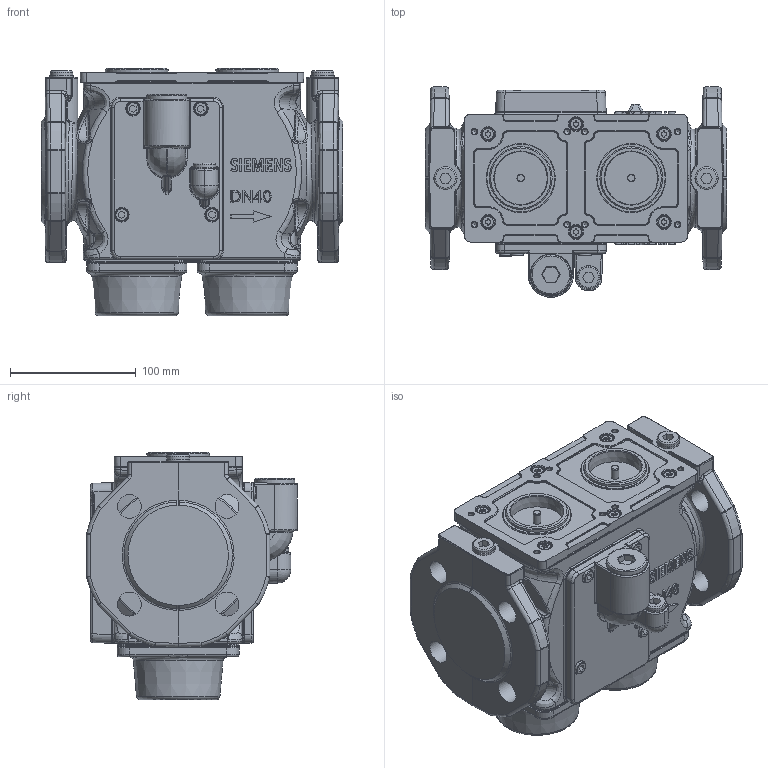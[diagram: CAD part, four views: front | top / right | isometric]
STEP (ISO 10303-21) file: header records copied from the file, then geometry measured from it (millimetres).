
FILE_DESCRIPTION(/* description */ (''),/* implementation_level */ '2;1');
FILE_NAME(/* name */ 'A5W00027701_02.stp',/* time_stamp */ '2018-06-27T09:00:15+02:00',/* author */ (''),/* organization */ (''),/* preprocessor_version */ 'ST-DEVELOPER v16',/* originating_system */ 'SIEMENS PLM Software NX 10.0',/* authorisation */ '');
FILE_SCHEMA (('AUTOMOTIVE_DESIGN { 1 0 10303 214 3 1 1 1 }'));
Products named in the file (1): Gant0728F15Eyvlt
Bounding box: 240 x 168 x 197 mm (x, y, z)
Volume: 4056001.3 mm3; surface area: 256739 mm2
Topology: 1 solids, 7 shells, 2971 faces, 7221 edges, 4384 vertices
Faces by surface type: plane 1128, cylinder 685, bspline 545, torus 242, cone 213, sphere 98, extrusion 60
Full cylindrical faces by diameter (mm): 4.2 x8, 5.5 x8, 5.795 x4, 6 x2, 10 x22, 10.5 x6, 11 x20, 13.5 x3, 18 x3, 18.5 x3, 19 x8, 27 x1, 32 x1, 32.5 x1, 50 x2, 54 x2
Entity records: 104137 total; most frequent: CARTESIAN_POINT 39789, ORIENTED_EDGE 13474, DIRECTION 12659, EDGE_CURVE 6737, AXIS2_PLACEMENT_3D 4783, VERTEX_POINT 4276, EDGE_LOOP 3483, VECTOR 3093
